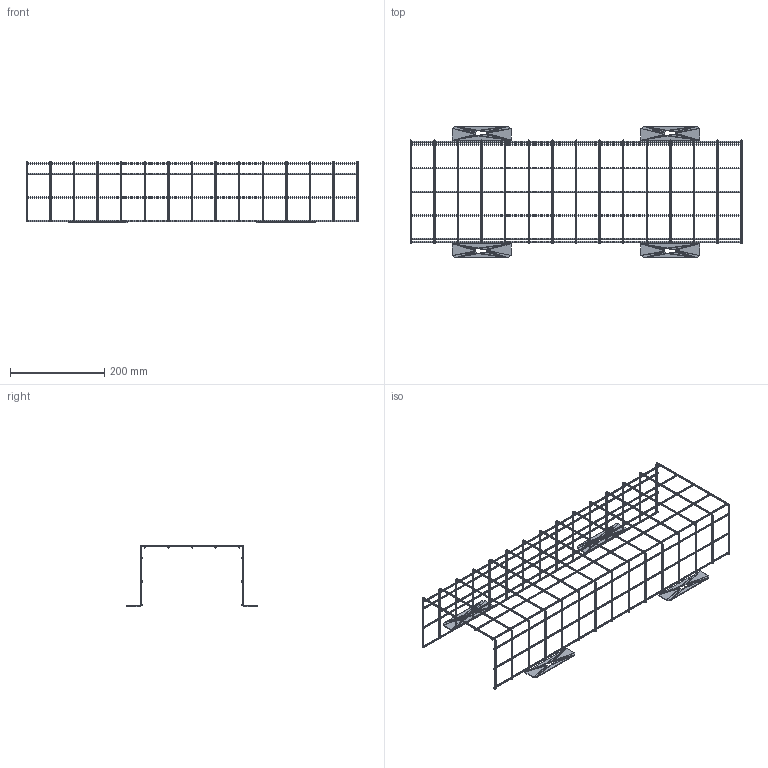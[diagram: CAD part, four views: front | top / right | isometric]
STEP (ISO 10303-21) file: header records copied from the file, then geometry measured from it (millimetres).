
FILE_DESCRIPTION((''),'2;1');
FILE_NAME('020041', '2025-07-25T06:16:37', (''), (''), 'ImageToStl.com STEP Converter','', '');
FILE_SCHEMA(('AUTOMOTIVE_DESIGN_CC2'));
Length unit declared in the file: metre
Products named in the file (1): product0
Bounding box: 703 x 279 x 130.5 mm (x, y, z)
Surface area: 169066.7 mm2 (no closed solid volume)
Topology: 0 solids, 5264 shells, 5264 faces, 15792 edges, 2684 vertices
Faces by surface type: plane 5264
Entity records: 121204 total; most frequent: DIRECTION 26322, ORIENTED_EDGE 15792, EDGE_CURVE 15792, LINE 15792, VECTOR 15792, AXIS2_PLACEMENT_3D 5265, FACE_SURFACE 5264, PLANE 5264
